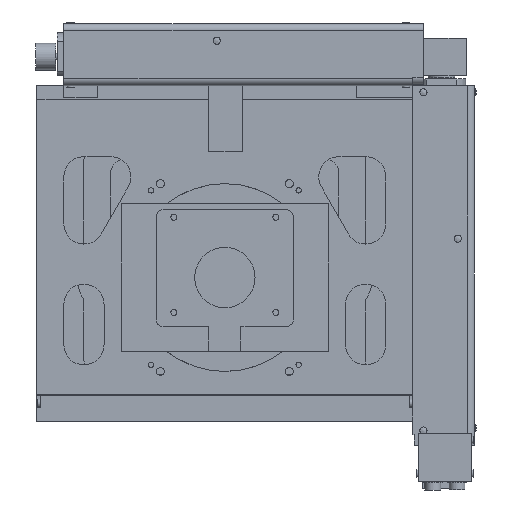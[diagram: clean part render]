
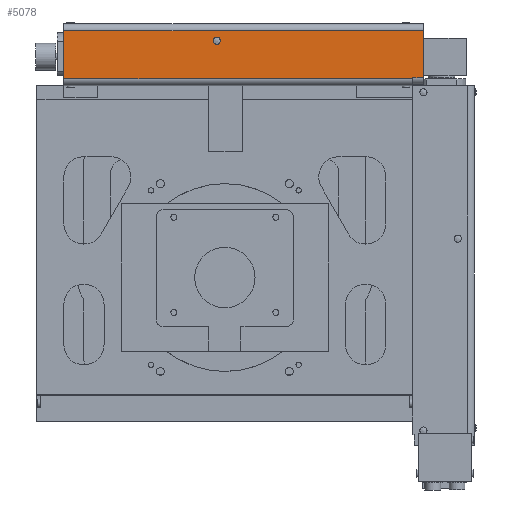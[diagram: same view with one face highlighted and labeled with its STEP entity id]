
A CAD part, front view. The second image highlights one B-rep face of the part: STEP entity #5078.
In plain terms, the highlighted planar face has unit normal (0, -1, 0).
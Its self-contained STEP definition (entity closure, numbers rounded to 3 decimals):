
#701 = VERTEX_POINT ( 'NONE', #6948 ) ;
#726 = VERTEX_POINT ( 'NONE', #6957 ) ;
#786 = VERTEX_POINT ( 'NONE', #7017 ) ;
#789 = VERTEX_POINT ( 'NONE', #7020 ) ;
#790 = VERTEX_POINT ( 'NONE', #7021 ) ;
#793 = VERTEX_POINT ( 'NONE', #7024 ) ;
#797 = VERTEX_POINT ( 'NONE', #7028 ) ;
#798 = VERTEX_POINT ( 'NONE', #7029 ) ;
#995 = EDGE_LOOP ( 'NONE', ( #5398, #5399, #5400, #5401, #5402, #5403 ) ) ;
#999 = EDGE_LOOP ( 'NONE', ( #5404, #5405 ) ) ;
#4804 = EDGE_CURVE ( 'NONE', #701, #726, #11208, .T. ) ;
#4882 = EDGE_CURVE ( 'NONE', #726, #701, #15800, .T. ) ;
#4911 = EDGE_CURVE ( 'NONE', #789, #786, #16525, .T. ) ;
#4912 = EDGE_CURVE ( 'NONE', #789, #797, #16530, .T. ) ;
#4913 = EDGE_CURVE ( 'NONE', #797, #798, #16524, .T. ) ;
#4914 = EDGE_CURVE ( 'NONE', #793, #798, #16536, .T. ) ;
#4915 = EDGE_CURVE ( 'NONE', #790, #793, #16523, .T. ) ;
#4916 = EDGE_CURVE ( 'NONE', #790, #786, #16531, .T. ) ;
#5078 = ADVANCED_FACE ( 'NONE', ( #17143, #17144 ), #17145, .T. ) ;
#5398 = ORIENTED_EDGE ( 'NONE', *, *, #4911, .F. ) ;
#5399 = ORIENTED_EDGE ( 'NONE', *, *, #4912, .T. ) ;
#5400 = ORIENTED_EDGE ( 'NONE', *, *, #4913, .T. ) ;
#5401 = ORIENTED_EDGE ( 'NONE', *, *, #4914, .F. ) ;
#5402 = ORIENTED_EDGE ( 'NONE', *, *, #4915, .F. ) ;
#5403 = ORIENTED_EDGE ( 'NONE', *, *, #4916, .T. ) ;
#5404 = ORIENTED_EDGE ( 'NONE', *, *, #4882, .F. ) ;
#5405 = ORIENTED_EDGE ( 'NONE', *, *, #4804, .F. ) ;
#6948 = CARTESIAN_POINT ( 'NONE',  ( -6., -22.5, 173.85 ) ) ;
#6957 = CARTESIAN_POINT ( 'NONE',  ( -6., -22.5, 179.15 ) ) ;
#7017 = CARTESIAN_POINT ( 'NONE',  ( 148., -22.5, 149. ) ) ;
#7020 = CARTESIAN_POINT ( 'NONE',  ( 148., -22.5, 184. ) ) ;
#7021 = CARTESIAN_POINT ( 'NONE',  ( 140., -22.5, 149. ) ) ;
#7024 = CARTESIAN_POINT ( 'NONE',  ( 140., -22.5, 148. ) ) ;
#7028 = CARTESIAN_POINT ( 'NONE',  ( -120., -22.5, 184. ) ) ;
#7029 = CARTESIAN_POINT ( 'NONE',  ( -120., -22.5, 148. ) ) ;
#11208 = CIRCLE ( 'NONE', #11210, 2.65 ) ;
#11210 = AXIS2_PLACEMENT_3D ( 'NONE', #15127, #15128, #15129 ) ;
#15127 = CARTESIAN_POINT ( 'NONE',  ( -6., -22.5, 176.5 ) ) ;
#15128 = DIRECTION ( 'NONE',  ( 0., -1., 0. ) ) ;
#15129 = DIRECTION ( 'NONE',  ( 0., 0., 1. ) ) ;
#15747 = CARTESIAN_POINT ( 'NONE',  ( -6., -22.5, 176.5 ) ) ;
#15748 = DIRECTION ( 'NONE',  ( 0., -1., 0. ) ) ;
#15749 = DIRECTION ( 'NONE',  ( 0., 0., 1. ) ) ;
#15800 = CIRCLE ( 'NONE', #15803, 2.65 ) ;
#15803 = AXIS2_PLACEMENT_3D ( 'NONE', #15747, #15748, #15749 ) ;
#15844 = VECTOR ( 'NONE', #16529, 1000. ) ;
#15845 = VECTOR ( 'NONE', #16535, 1000. ) ;
#15847 = VECTOR ( 'NONE', #16533, 1000. ) ;
#15848 = VECTOR ( 'NONE', #16540, 1000. ) ;
#15849 = VECTOR ( 'NONE', #16538, 1000. ) ;
#15850 = VECTOR ( 'NONE', #16542, 1000. ) ;
#16041 = AXIS2_PLACEMENT_3D ( 'NONE', #17134, #17147, #17148 ) ;
#16521 = CARTESIAN_POINT ( 'NONE',  ( 148., -22.5, 179. ) ) ;
#16523 = LINE ( 'NONE', #16539, #15848 ) ;
#16524 = LINE ( 'NONE', #16534, #15845 ) ;
#16525 = LINE ( 'NONE', #16521, #15844 ) ;
#16529 = DIRECTION ( 'NONE',  ( 0., 0., -1. ) ) ;
#16530 = LINE ( 'NONE', #16532, #15847 ) ;
#16531 = LINE ( 'NONE', #16541, #15850 ) ;
#16532 = CARTESIAN_POINT ( 'NONE',  ( 140., -22.5, 184. ) ) ;
#16533 = DIRECTION ( 'NONE',  ( -1., 0., 0. ) ) ;
#16534 = CARTESIAN_POINT ( 'NONE',  ( -120., -22.5, 184. ) ) ;
#16535 = DIRECTION ( 'NONE',  ( 0., 0., -1. ) ) ;
#16536 = LINE ( 'NONE', #16537, #15849 ) ;
#16537 = CARTESIAN_POINT ( 'NONE',  ( 140., -22.5, 148. ) ) ;
#16538 = DIRECTION ( 'NONE',  ( -1., 0., 0. ) ) ;
#16539 = CARTESIAN_POINT ( 'NONE',  ( 140., -22.5, 184. ) ) ;
#16540 = DIRECTION ( 'NONE',  ( 0., 0., -1. ) ) ;
#16541 = CARTESIAN_POINT ( 'NONE',  ( 140., -22.5, 149. ) ) ;
#16542 = DIRECTION ( 'NONE',  ( 1., 0., 0. ) ) ;
#17134 = CARTESIAN_POINT ( 'NONE',  ( 140., -22.5, 179. ) ) ;
#17143 = FACE_OUTER_BOUND ( 'NONE', #995, .T. ) ;
#17144 = FACE_BOUND ( 'NONE', #999, .T. ) ;
#17145 = PLANE ( 'NONE',  #16041 ) ;
#17147 = DIRECTION ( 'NONE',  ( 0., -1., 0. ) ) ;
#17148 = DIRECTION ( 'NONE',  ( 0., 0., -1. ) ) ;
